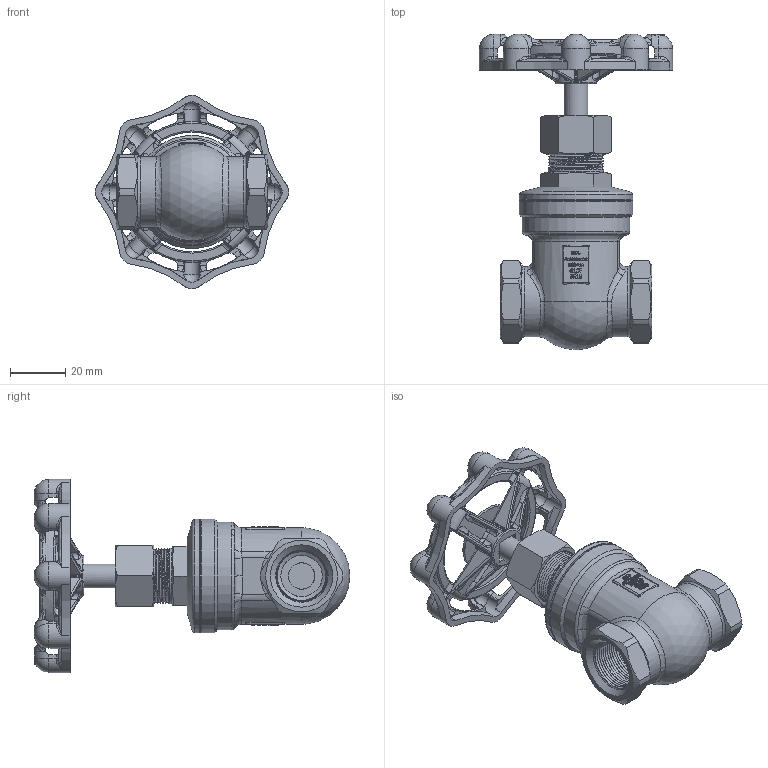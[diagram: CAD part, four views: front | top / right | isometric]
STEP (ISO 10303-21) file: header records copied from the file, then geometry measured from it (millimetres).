
FILE_DESCRIPTION((''),'2;1');
FILE_NAME('K:\Inventor\1 Artikel\8) Absperrschieber\Haitima\508-VA, 2029\508-VA, G0,5\508-VA, G0,5, 3D\508-VA, G0,5, PN15, 3D.stp','2020-02-18T13:03:33',('claudia'),(''),'Autodesk Inventor 2013','Autodesk Inventor 2013','');
FILE_SCHEMA(('AUTOMOTIVE_DESIGN { 1 0 10303 214 1 1 1 1 }'));
Length unit declared in the file: millimetre
Products named in the file (1): Bauteil1
Bounding box: 70 x 114.4 x 70 mm (x, y, z)
Volume: 58899.6 mm3; surface area: 45465.8 mm2
Topology: 1 solids, 14 shells, 2287 faces, 6124 edges, 3911 vertices
Faces by surface type: bspline 901, plane 848, cylinder 319, torus 108, cone 80, sphere 31
Full cylindrical faces by diameter (mm): 6 x1, 8.7 x4, 9.25 x19, 9.5 x2, 10.4 x1, 11 x1, 11.5 x1, 12 x1, 12.8 x1, 14 x1, 14.8 x3, 15 x4, 18.376 x1, 20 x1, 21 x1, 25 x1, 25.5 x2, 26.682 x1, 30 x1, 31.5 x1, 34 x1, 36.5 x1, 37 x1, 39 x1, 41 x2, 51 x1
Entity records: 134374 total; most frequent: CARTESIAN_POINT 84403, ORIENTED_EDGE 11730, DIRECTION 7758, EDGE_CURVE 5865, VERTEX_POINT 3792, AXIS2_PLACEMENT_3D 2620, VECTOR 2518, LINE 2518
